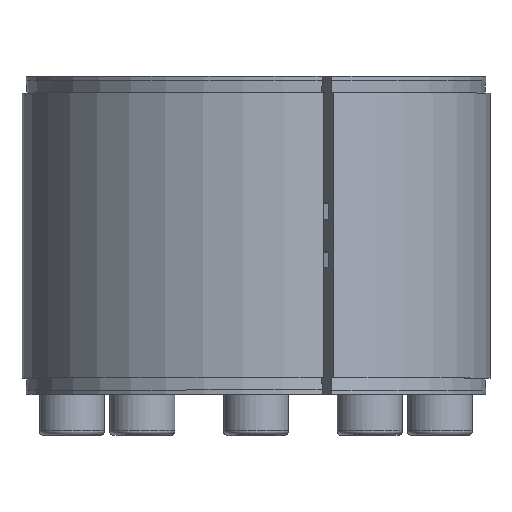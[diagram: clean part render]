
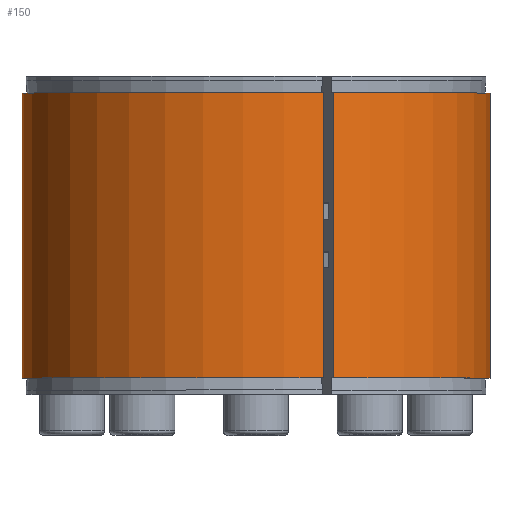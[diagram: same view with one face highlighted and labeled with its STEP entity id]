
A CAD part, top view. The second image highlights one B-rep face of the part: STEP entity #150.
In plain terms, the highlighted cylindrical face has radius 57.5 mm (diameter 115 mm), a partial arc.
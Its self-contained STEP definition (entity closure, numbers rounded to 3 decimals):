
#150 = ADVANCED_FACE( '', ( #362 ), #363, .T. );
#362 = FACE_OUTER_BOUND( '', #636, .T. );
#363 = CYLINDRICAL_SURFACE( '', #637, 57.5 );
#636 = EDGE_LOOP( '', ( #1048, #1049, #1050, #1051 ) );
#637 = AXIS2_PLACEMENT_3D( '', #1052, #1053, #1054 );
#1048 = ORIENTED_EDGE( '', *, *, #1370, .F. );
#1049 = ORIENTED_EDGE( '', *, *, #1414, .T. );
#1050 = ORIENTED_EDGE( '', *, *, #1395, .F. );
#1051 = ORIENTED_EDGE( '', *, *, #1385, .F. );
#1052 = CARTESIAN_POINT( '', ( 0., -60., 0. ) );
#1053 = DIRECTION( '', ( 0., 1., 0. ) );
#1054 = DIRECTION( '', ( 0., 0., -1. ) );
#1370 = EDGE_CURVE( '', #1659, #1661, #1662, .T. );
#1385 = EDGE_CURVE( '', #1661, #1683, #1684, .T. );
#1395 = EDGE_CURVE( '', #1683, #1696, #1697, .F. );
#1414 = EDGE_CURVE( '', #1659, #1696, #1725, .T. );
#1659 = VERTEX_POINT( '', #2093 );
#1661 = VERTEX_POINT( '', #2096 );
#1662 = LINE( '', #2097, #2098 );
#1683 = VERTEX_POINT( '', #2122 );
#1684 = CIRCLE( '', #2123, 57.5 );
#1696 = VERTEX_POINT( '', #2137 );
#1697 = LINE( '', #2138, #2139 );
#1725 = CIRCLE( '', #2182, 57.5 );
#2093 = CARTESIAN_POINT( '', ( 16.575, 74., 55.059 ) );
#2096 = CARTESIAN_POINT( '', ( 16.575, 4., 55.059 ) );
#2097 = CARTESIAN_POINT( '', ( 16.575, -60., 55.059 ) );
#2098 = VECTOR( '', #2425, 1000. );
#2122 = CARTESIAN_POINT( '', ( 18.953, 4., 54.287 ) );
#2123 = AXIS2_PLACEMENT_3D( '', #2447, #2448, #2449 );
#2137 = CARTESIAN_POINT( '', ( 18.953, 74., 54.287 ) );
#2138 = CARTESIAN_POINT( '', ( 18.953, -60., 54.287 ) );
#2139 = VECTOR( '', #2458, 1000. );
#2182 = AXIS2_PLACEMENT_3D( '', #2477, #2478, #2479 );
#2425 = DIRECTION( '', ( 0., -1., 0. ) );
#2447 = CARTESIAN_POINT( '', ( 0., 4., 0. ) );
#2448 = DIRECTION( '', ( 0., -1., 0. ) );
#2449 = DIRECTION( '', ( 0., 0., -1. ) );
#2458 = DIRECTION( '', ( 0., -1., 0. ) );
#2477 = CARTESIAN_POINT( '', ( 0., 74., 0. ) );
#2478 = DIRECTION( '', ( 0., -1., 0. ) );
#2479 = DIRECTION( '', ( 0., 0., -1. ) );
